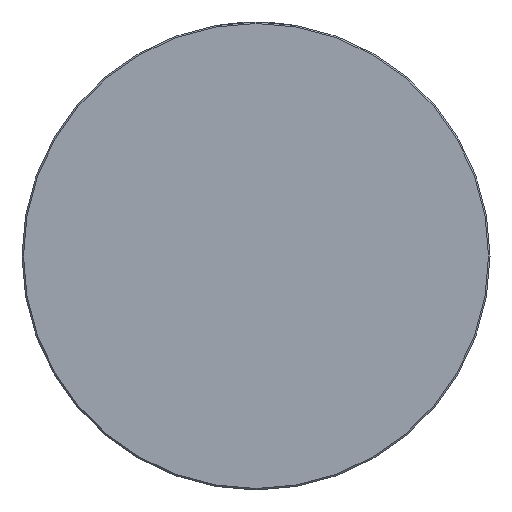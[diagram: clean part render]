
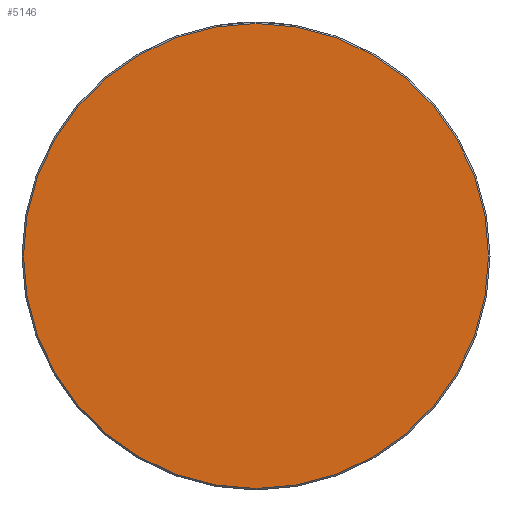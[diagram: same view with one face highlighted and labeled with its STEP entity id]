
A CAD part, left-side view. The second image highlights one B-rep face of the part: STEP entity #5146.
In plain terms, the highlighted planar face has unit normal (-1, 0, 0).
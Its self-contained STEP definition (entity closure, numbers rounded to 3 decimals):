
#193 = PLANE ( 'NONE',  #5710 ) ;
#253 = DIRECTION ( 'NONE',  ( 0., 0., -1. ) ) ;
#375 = AXIS2_PLACEMENT_3D ( 'NONE', #3362, #3454, #766 ) ;
#636 = CARTESIAN_POINT ( 'NONE',  ( 654., 0., 1189. ) ) ;
#766 = DIRECTION ( 'NONE',  ( 0., 0., -1. ) ) ;
#1726 = VERTEX_POINT ( 'NONE', #3692 ) ;
#1795 = CIRCLE ( 'NONE', #375, 31.3 ) ;
#2081 = DIRECTION ( 'NONE',  ( -1., 0., 0. ) ) ;
#2400 = EDGE_CURVE ( 'NONE', #3284, #1726, #1795, .T. ) ;
#2464 = DIRECTION ( 'NONE',  ( 1., 0., 0. ) ) ;
#3284 = VERTEX_POINT ( 'NONE', #5109 ) ;
#3362 = CARTESIAN_POINT ( 'NONE',  ( 654., 0., 1159. ) ) ;
#3454 = DIRECTION ( 'NONE',  ( -1., 0., 0. ) ) ;
#3692 = CARTESIAN_POINT ( 'NONE',  ( 654., 0., 1190.3 ) ) ;
#3800 = ORIENTED_EDGE ( 'NONE', *, *, #2400, .T. ) ;
#4163 = EDGE_LOOP ( 'NONE', ( #3800, #5302 ) ) ;
#4278 = CARTESIAN_POINT ( 'NONE',  ( 654., 0., 1159. ) ) ;
#4465 = EDGE_CURVE ( 'NONE', #1726, #3284, #5150, .T. ) ;
#4869 = AXIS2_PLACEMENT_3D ( 'NONE', #4278, #2081, #5557 ) ;
#5109 = CARTESIAN_POINT ( 'NONE',  ( 654., 0., 1127.7 ) ) ;
#5123 = FACE_OUTER_BOUND ( 'NONE', #4163, .T. ) ;
#5146 = ADVANCED_FACE ( 'NONE', ( #5123 ), #193, .F. ) ;
#5150 = CIRCLE ( 'NONE', #4869, 31.3 ) ;
#5302 = ORIENTED_EDGE ( 'NONE', *, *, #4465, .T. ) ;
#5557 = DIRECTION ( 'NONE',  ( 0., 0., -1. ) ) ;
#5710 = AXIS2_PLACEMENT_3D ( 'NONE', #636, #2464, #253 ) ;
